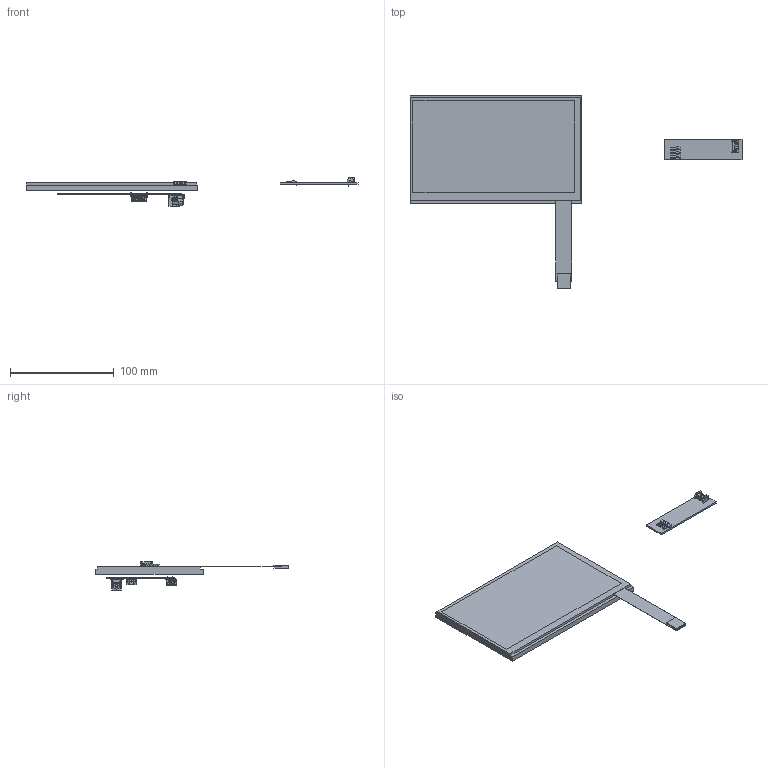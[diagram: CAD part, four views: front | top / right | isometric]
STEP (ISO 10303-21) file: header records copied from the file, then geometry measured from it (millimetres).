
FILE_DESCRIPTION (( 'STEP AP214' ), '1' );
FILE_NAME ('PDC070W-001 REV P1 STEP.STEP', '2025-10-07T22:18:28', ( '' ), ( '' ), 'SwSTEP 2.0', 'SolidWorks 2020', '' );
FILE_SCHEMA (( 'AUTOMOTIVE_DESIGN' ));
Length unit declared in the file: millimetre
Products named in the file (37): S3B-PH-SM4-TB(LF)(SN)_4; S3B-PH-SM4-TB(LF)(SN)_5; PH1RB-05-UA_7; PH1RB-05-UA_2; PDC070W-001 CONTROLLER ASSEMBLY; PH1RB-05-UA_11; S5B-PH-K-S(LF)(SN)_4; PH1RB-05-UA_15; S5B-PH-K-S(LF)(SN)_2; PH1RB-05-UA_12; S3B-PH-SM4-TB_LF__SN_; PH1RB-05-UA; PJ-002AH-SMT-TR; S5B-PH-K-S(LF)(SN)_3; PH1RB-05-UA_4; PDC070W-001 REV P1 STEP; S3B-PH-SM4-TB(LF)(SN); PH1RB-05-UA_8; PH1RB-05-UA_9; PH1RB-05-UA_3; PH1RB-05-UA_10; S3B-PH-SM4-TB(LF)(SN)_6; PH1RB-05-UA_14; S5B-PH-K-S(LF)(SN)_6; S5B-PH-K-S(LF)(SN)--3DModel-STEP-56544; S3B-PH-SM4-TB(LF)(SN)_3; 10029449-111RLF; PH1RB-05-UA_5; PDC070W-001 DISPLAY; PH1RB-05-UA_6; PH1RB-05-UA_13; S5B-PH-K-S(LF)(SN); S5B-PH-K-S(LF)(SN)_5; PDC070W-001 DISPLAY ASSEMBLY; PDC070W-001 CONTROLLER; S3B-PH-SM4-TB(LF)(SN)_2
Assembly tree (36 placements, depth 4):
  PDC070W-001 REV P1 STEP
    PDC070W-001 DISPLAY ASSEMBLY
      PDC070W-001 DISPLAY
      PJ-002AH-SMT-TR
      S3B-PH-SM4-TB_LF__SN_
        S3B-PH-SM4-TB(LF)(SN)_3
        S3B-PH-SM4-TB(LF)(SN)_6
        S3B-PH-SM4-TB(LF)(SN)_4
        S3B-PH-SM4-TB(LF)(SN)
        S3B-PH-SM4-TB(LF)(SN)_2
        S3B-PH-SM4-TB(LF)(SN)_5
      10029449-111RLF
    PDC070W-001 CONTROLLER ASSEMBLY
      PDC070W-001 CONTROLLER
      S5B-PH-K-S(LF)(SN)--3DModel-STEP-56544
        S5B-PH-K-S(LF)(SN)_5
        S5B-PH-K-S(LF)(SN)_6
        S5B-PH-K-S(LF)(SN)_3
        S5B-PH-K-S(LF)(SN)
        S5B-PH-K-S(LF)(SN)_2
        S5B-PH-K-S(LF)(SN)_4
      PH1RB-05-UA
        PH1RB-05-UA_4
        PH1RB-05-UA_13
        PH1RB-05-UA_9
        PH1RB-05-UA_15
        PH1RB-05-UA_12
        PH1RB-05-UA_8
        PH1RB-05-UA_14
        PH1RB-05-UA_3
        PH1RB-05-UA_6
        PH1RB-05-UA_7
        PH1RB-05-UA_11
        PH1RB-05-UA_2
        PH1RB-05-UA
        PH1RB-05-UA_10
        PH1RB-05-UA_5
Bounding box: 320 x 186.01 x 27.6 mm (x, y, z)
Volume: 136576.7 mm3; surface area: 64907.1 mm2
Topology: 33 solids, 37 shells, 2948 faces, 7951 edges, 5004 vertices
Faces by surface type: plane 2063, cylinder 667, bspline 182, cone 36
Entity records: 105834 total; most frequent: CARTESIAN_POINT 22180, ORIENTED_EDGE 15736, DIRECTION 13805, EDGE_CURVE 7927, VECTOR 5775, LINE 5775, VERTEX_POINT 5004, AXIS2_PLACEMENT_3D 4015
